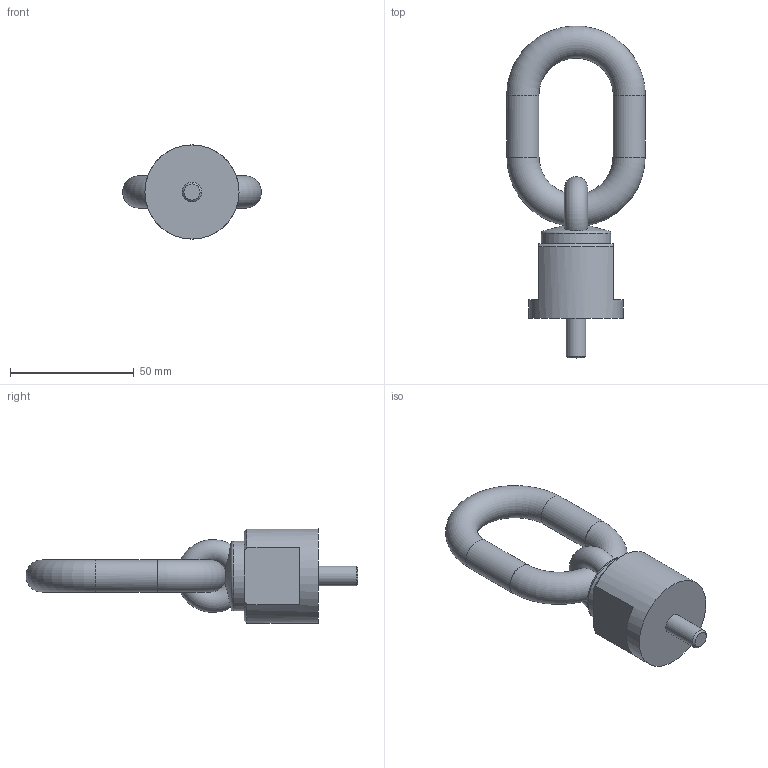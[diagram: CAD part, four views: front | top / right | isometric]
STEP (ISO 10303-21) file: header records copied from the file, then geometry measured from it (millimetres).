
FILE_DESCRIPTION( ( 'STEP AP203' ), '1' );
FILE_NAME( 'p:/temp/worker_11/temp/app_40_0201906261451292420594410e898ce_000000_00_00_000000/format_2/C800X0030816.stp', '2019-06-26T12:51:32', ( '' ), ( '' ), ' ', 'PARTsolutions', ' ' );
FILE_SCHEMA( ( 'CONFIG_CONTROL_DESIGN' ) );
Length unit declared in the file: millimetre
Products named in the file (1): _C800X0030816
Bounding box: 56 x 133.97 x 38 mm (x, y, z)
Volume: 63123.3 mm3; surface area: 14730.4 mm2
Topology: 1 solids, 1 shells, 27 faces, 65 edges, 40 vertices
Faces by surface type: plane 13, torus 5, cylinder 5, cone 4
Full cylindrical faces by diameter (mm): 8 x1, 13 x2, 28.2 x1, 38 x1
Entity records: 1032 total; most frequent: CARTESIAN_POINT 451, DIRECTION 114, ORIENTED_EDGE 94, AXIS2_PLACEMENT_3D 53, EDGE_CURVE 47, EDGE_LOOP 40, FACE_OUTER_BOUND 36, VERTEX_POINT 34
